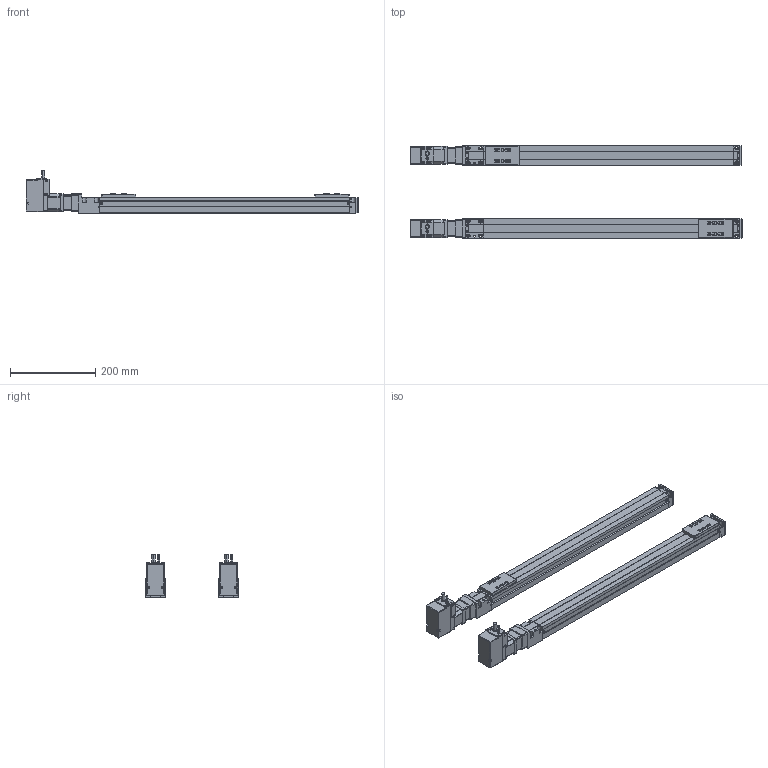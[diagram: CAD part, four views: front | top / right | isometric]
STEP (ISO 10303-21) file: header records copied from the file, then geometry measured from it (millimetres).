
FILE_DESCRIPTION(('STEP AP214'),'1');
FILE_NAME('K:\外形図\3D_DAD2\SCLT4_SBR\tmp0.step',' ',(' '),(' '),'XStep 1.0',' ',' ');
FILE_SCHEMA(('automotive_design'));
Length unit declared in the file: millimetre
Bounding box: 778.67 x 216.56 x 100.06 mm (x, y, z)
Volume: 2708560.7 mm3; surface area: 548650.3 mm2
Topology: 75 solids, 75 shells, 4185 faces, 11182 edges, 7078 vertices
Faces by surface type: plane 1957, cylinder 1672, torus 260, bspline 208, cone 48, sphere 40
Entity records: 177062 total; most frequent: CARTESIAN_POINT 35234, DIRECTION 23034, ORIENTED_EDGE 22220, EDGE_CURVE 11102, AXIS2_PLACEMENT_3D 8018, VERTEX_POINT 7078, LINE 6998, VECTOR 6998
